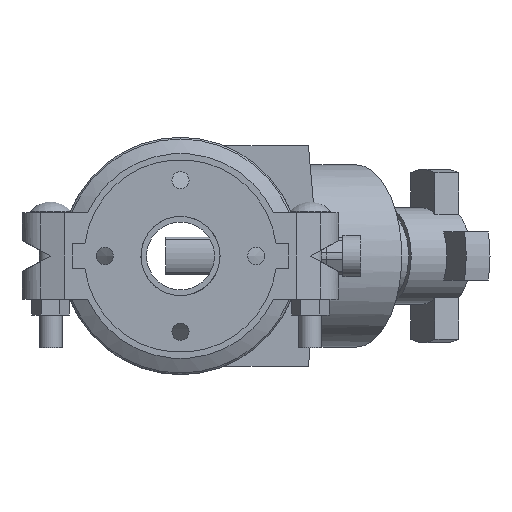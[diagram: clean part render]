
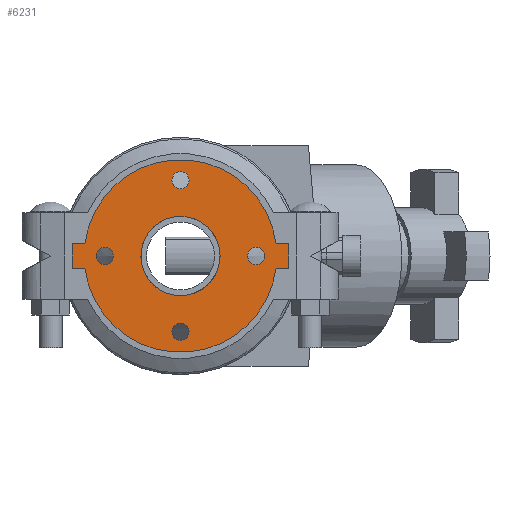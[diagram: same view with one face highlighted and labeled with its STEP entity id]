
A CAD part, front view. The second image highlights one B-rep face of the part: STEP entity #6231.
In plain terms, the highlighted planar face has unit normal (0, -1, 0) as drawn and (0, 0, 1) by its records, which use the part's own axes.
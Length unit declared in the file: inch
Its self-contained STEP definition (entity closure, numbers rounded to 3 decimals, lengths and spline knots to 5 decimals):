
#174=FACE_BOUND('',#792,.T.);
#175=FACE_BOUND('',#793,.T.);
#176=FACE_BOUND('',#794,.T.);
#177=FACE_BOUND('',#795,.T.);
#178=FACE_BOUND('',#796,.T.);
#241=PLANE('',#6785);
#446=FACE_OUTER_BOUND('',#791,.T.);
#791=EDGE_LOOP('',(#4034,#4035,#4036,#4037,#4038,#4039,#4040,#4041));
#792=EDGE_LOOP('',(#4042));
#793=EDGE_LOOP('',(#4043));
#794=EDGE_LOOP('',(#4044));
#795=EDGE_LOOP('',(#4045));
#796=EDGE_LOOP('',(#4046,#4047));
#1193=LINE('',#9522,#1659);
#1194=LINE('',#9525,#1660);
#1197=LINE('',#9530,#1663);
#1198=LINE('',#9533,#1664);
#1200=LINE('',#9536,#1666);
#1201=LINE('',#9538,#1667);
#1659=VECTOR('',#7568,0.3937);
#1660=VECTOR('',#7571,0.3937);
#1663=VECTOR('',#7576,0.3937);
#1664=VECTOR('',#7579,0.3937);
#1666=VECTOR('',#7583,0.3937);
#1667=VECTOR('',#7586,0.3937);
#2109=CIRCLE('',#6756,0.3125);
#2111=CIRCLE('',#6759,0.3125);
#2113=CIRCLE('',#6762,0.3125);
#2115=CIRCLE('',#6765,0.3125);
#2121=CIRCLE('',#6773,3.5);
#2122=CIRCLE('',#6775,1.4375);
#2123=CIRCLE('',#6776,1.4375);
#2124=CIRCLE('',#6778,3.5);
#2467=VERTEX_POINT('',#9457);
#2469=VERTEX_POINT('',#9463);
#2471=VERTEX_POINT('',#9469);
#2473=VERTEX_POINT('',#9475);
#2485=VERTEX_POINT('',#9502);
#2486=VERTEX_POINT('',#9504);
#2487=VERTEX_POINT('',#9508);
#2488=VERTEX_POINT('',#9510);
#2489=VERTEX_POINT('',#9514);
#2490=VERTEX_POINT('',#9516);
#2491=VERTEX_POINT('',#9520);
#2492=VERTEX_POINT('',#9524);
#2493=VERTEX_POINT('',#9528);
#2494=VERTEX_POINT('',#9532);
#3073=EDGE_CURVE('',#2467,#2467,#2109,.T.);
#3076=EDGE_CURVE('',#2469,#2469,#2111,.T.);
#3079=EDGE_CURVE('',#2471,#2471,#2113,.T.);
#3082=EDGE_CURVE('',#2473,#2473,#2115,.T.);
#3097=EDGE_CURVE('',#2485,#2486,#2121,.T.);
#3099=EDGE_CURVE('',#2488,#2487,#2122,.T.);
#3100=EDGE_CURVE('',#2487,#2488,#2123,.T.);
#3102=EDGE_CURVE('',#2490,#2489,#2124,.T.);
#3105=EDGE_CURVE('',#2486,#2491,#1193,.T.);
#3106=EDGE_CURVE('',#2492,#2490,#1194,.T.);
#3109=EDGE_CURVE('',#2489,#2493,#1197,.T.);
#3110=EDGE_CURVE('',#2494,#2485,#1198,.T.);
#3112=EDGE_CURVE('',#2493,#2494,#1200,.T.);
#3113=EDGE_CURVE('',#2491,#2492,#1201,.T.);
#4034=ORIENTED_EDGE('',*,*,#3109,.T.);
#4035=ORIENTED_EDGE('',*,*,#3112,.T.);
#4036=ORIENTED_EDGE('',*,*,#3110,.T.);
#4037=ORIENTED_EDGE('',*,*,#3097,.T.);
#4038=ORIENTED_EDGE('',*,*,#3105,.T.);
#4039=ORIENTED_EDGE('',*,*,#3113,.T.);
#4040=ORIENTED_EDGE('',*,*,#3106,.T.);
#4041=ORIENTED_EDGE('',*,*,#3102,.T.);
#4042=ORIENTED_EDGE('',*,*,#3073,.T.);
#4043=ORIENTED_EDGE('',*,*,#3076,.T.);
#4044=ORIENTED_EDGE('',*,*,#3079,.T.);
#4045=ORIENTED_EDGE('',*,*,#3082,.T.);
#4046=ORIENTED_EDGE('',*,*,#3099,.T.);
#4047=ORIENTED_EDGE('',*,*,#3100,.T.);
#6231=ADVANCED_FACE('',(#446,#174,#175,#176,#177,#178),#241,.T.);
#6756=AXIS2_PLACEMENT_3D('',#9458,#7504,#7505);
#6759=AXIS2_PLACEMENT_3D('',#9464,#7511,#7512);
#6762=AXIS2_PLACEMENT_3D('',#9470,#7518,#7519);
#6765=AXIS2_PLACEMENT_3D('',#9476,#7525,#7526);
#6773=AXIS2_PLACEMENT_3D('',#9506,#7550,#7551);
#6775=AXIS2_PLACEMENT_3D('',#9511,#7555,#7556);
#6776=AXIS2_PLACEMENT_3D('',#9512,#7557,#7558);
#6778=AXIS2_PLACEMENT_3D('',#9517,#7562,#7563);
#6785=AXIS2_PLACEMENT_3D('',#9539,#7587,#7588);
#7504=DIRECTION('center_axis',(0.,0.,-1.));
#7505=DIRECTION('ref_axis',(0.,1.,0.));
#7511=DIRECTION('center_axis',(0.,0.,-1.));
#7512=DIRECTION('ref_axis',(1.,0.,0.));
#7518=DIRECTION('center_axis',(0.,0.,-1.));
#7519=DIRECTION('ref_axis',(0.,-1.,0.));
#7525=DIRECTION('center_axis',(0.,0.,-1.));
#7526=DIRECTION('ref_axis',(-1.,0.,0.));
#7550=DIRECTION('center_axis',(0.,0.,1.));
#7551=DIRECTION('ref_axis',(-1.,0.,0.));
#7555=DIRECTION('center_axis',(0.,0.,-1.));
#7556=DIRECTION('ref_axis',(-1.,0.,0.));
#7557=DIRECTION('center_axis',(0.,0.,-1.));
#7558=DIRECTION('ref_axis',(-1.,0.,0.));
#7562=DIRECTION('center_axis',(0.,0.,1.));
#7563=DIRECTION('ref_axis',(-1.,0.,0.));
#7568=DIRECTION('',(0.,1.,0.));
#7571=DIRECTION('',(0.,-1.,0.));
#7576=DIRECTION('',(0.,-1.,0.));
#7579=DIRECTION('',(0.,1.,0.));
#7583=DIRECTION('',(1.,0.,0.));
#7586=DIRECTION('',(-1.,0.,0.));
#7587=DIRECTION('center_axis',(0.,0.,1.));
#7588=DIRECTION('ref_axis',(1.,0.,0.));
#9457=CARTESIAN_POINT('',(0.,2.4375,0.44));
#9458=CARTESIAN_POINT('Origin',(0.,2.75,0.44));
#9463=CARTESIAN_POINT('',(2.4375,0.,0.44));
#9464=CARTESIAN_POINT('Origin',(2.75,0.,0.44));
#9469=CARTESIAN_POINT('',(0.,-2.4375,0.44));
#9470=CARTESIAN_POINT('Origin',(0.,-2.75,0.44));
#9475=CARTESIAN_POINT('',(-2.4375,0.,0.44));
#9476=CARTESIAN_POINT('Origin',(-2.75,0.,0.44));
#9502=CARTESIAN_POINT('',(0.44,-3.47223,0.44));
#9504=CARTESIAN_POINT('',(0.44,3.47223,0.44));
#9506=CARTESIAN_POINT('Origin',(0.,0.,0.44));
#9508=CARTESIAN_POINT('',(1.4375,0.,0.44));
#9510=CARTESIAN_POINT('',(0.44,1.36851,0.44));
#9511=CARTESIAN_POINT('Origin',(0.,0.,0.44));
#9512=CARTESIAN_POINT('Origin',(0.,0.,0.44));
#9514=CARTESIAN_POINT('',(-0.44,-3.47223,0.44));
#9516=CARTESIAN_POINT('',(-0.44,3.47223,0.44));
#9517=CARTESIAN_POINT('Origin',(0.,0.,0.44));
#9520=CARTESIAN_POINT('',(0.44,3.94,0.44));
#9522=CARTESIAN_POINT('',(0.44,3.94,0.44));
#9524=CARTESIAN_POINT('',(-0.44,3.94,0.44));
#9525=CARTESIAN_POINT('',(-0.44,-3.94,0.44));
#9528=CARTESIAN_POINT('',(-0.44,-3.94,0.44));
#9530=CARTESIAN_POINT('',(-0.44,-3.94,0.44));
#9532=CARTESIAN_POINT('',(0.44,-3.94,0.44));
#9533=CARTESIAN_POINT('',(0.44,3.94,0.44));
#9536=CARTESIAN_POINT('',(0.44,-3.94,0.44));
#9538=CARTESIAN_POINT('',(-0.44,3.94,0.44));
#9539=CARTESIAN_POINT('Origin',(0.,0.,0.44));
